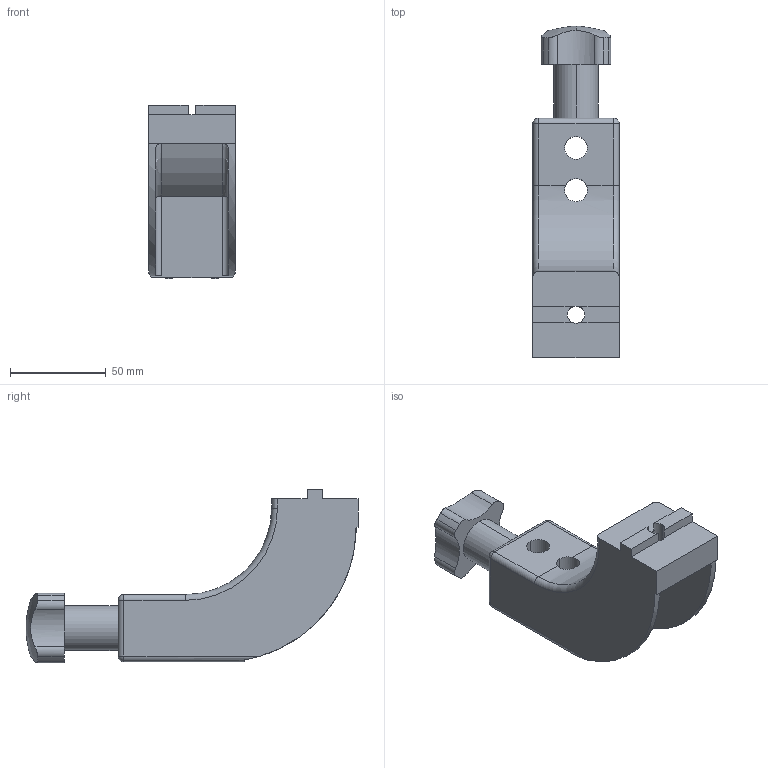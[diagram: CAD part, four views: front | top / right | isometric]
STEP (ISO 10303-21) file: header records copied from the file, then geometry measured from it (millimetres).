
FILE_DESCRIPTION (( 'STEP AP203' ), '1' );
FILE_NAME ('084.711.004.STEP', '2013-01-31T14:24:44', ( 'Alusic' ), ( 'Alusic' ), 'SwSTEP 2.0', 'SolidWorks 2011', '' );
FILE_SCHEMA (( 'CONFIG_CONTROL_DESIGN' ));
Length unit declared in the file: millimetre
Products named in the file (1): 084.711.004
Bounding box: 45 x 173 x 90.62 mm (x, y, z)
Volume: 185769.4 mm3; surface area: 42505.1 mm2
Topology: 1 solids, 1 shells, 81 faces, 215 edges, 133 vertices
Faces by surface type: cylinder 49, plane 22, sphere 6, torus 4
Entity records: 2915 total; most frequent: CARTESIAN_POINT 822, DIRECTION 432, ORIENTED_EDGE 422, EDGE_CURVE 211, AXIS2_PLACEMENT_3D 167, VERTEX_POINT 133, LINE 98, VECTOR 98
